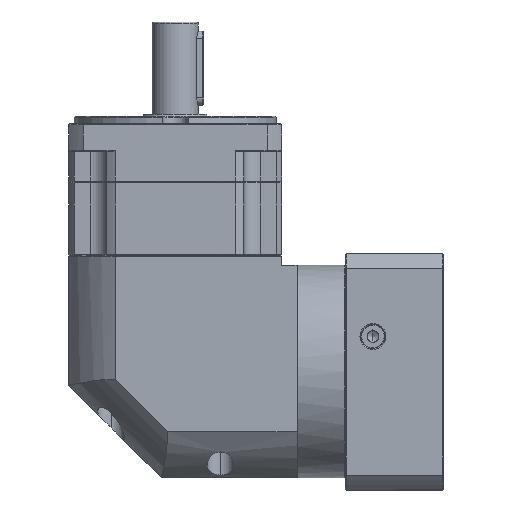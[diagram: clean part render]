
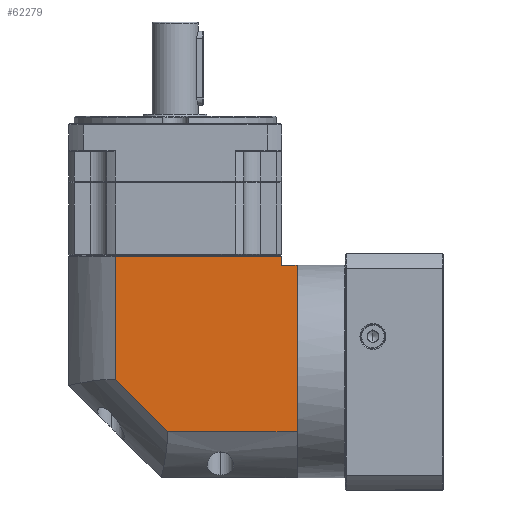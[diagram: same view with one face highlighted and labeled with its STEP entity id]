
A CAD part, left-side view. The second image highlights one B-rep face of the part: STEP entity #62279.
In plain terms, the highlighted planar face has unit normal (-1, 0, 0).
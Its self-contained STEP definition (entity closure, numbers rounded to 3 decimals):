
#909 = DIRECTION ( 'NONE',  ( 0., 0., -1. ) ) ;
#5706 = AXIS2_PLACEMENT_3D ( 'NONE', #172085, #91884, #11455 ) ;
#5979 = LINE ( 'NONE', #122843, #144469 ) ;
#6281 = CARTESIAN_POINT ( 'NONE',  ( -266.667, 6.115, 56.891 ) ) ;
#7271 = CARTESIAN_POINT ( 'NONE',  ( -266.667, -18.985, -9.671 ) ) ;
#11455 = DIRECTION ( 'NONE',  ( 0., 1., 0. ) ) ;
#16996 = ORIENTED_EDGE ( 'NONE', *, *, #155941, .F. ) ;
#17947 = VERTEX_POINT ( 'NONE', #33221 ) ;
#20611 = CARTESIAN_POINT ( 'NONE',  ( -266.667, -18.985, 56.891 ) ) ;
#27426 = VERTEX_POINT ( 'NONE', #144026 ) ;
#29031 = CARTESIAN_POINT ( 'NONE',  ( -266.667, -18.985, 63.391 ) ) ;
#30702 = CARTESIAN_POINT ( 'NONE',  ( -266.667, -47.323, -38.009 ) ) ;
#33016 = CARTESIAN_POINT ( 'NONE',  ( -266.667, -108.885, 56.891 ) ) ;
#33221 = CARTESIAN_POINT ( 'NONE',  ( -266.667, -47.323, -38.009 ) ) ;
#33978 = EDGE_CURVE ( 'NONE', #70452, #88734, #152165, .T. ) ;
#36535 = VERTEX_POINT ( 'NONE', #70586 ) ;
#39250 = VECTOR ( 'NONE', #100207, 1000. ) ;
#40720 = CARTESIAN_POINT ( 'NONE',  ( -266.667, -117.285, 63.391 ) ) ;
#41665 = EDGE_CURVE ( 'NONE', #142251, #71357, #47777, .T. ) ;
#43440 = ORIENTED_EDGE ( 'NONE', *, *, #33978, .T. ) ;
#44076 = ORIENTED_EDGE ( 'NONE', *, *, #41665, .F. ) ;
#44226 = DIRECTION ( 'NONE',  ( 0., 0.707, 0.707 ) ) ;
#47671 = DIRECTION ( 'NONE',  ( 0., 1., 0. ) ) ;
#47777 = LINE ( 'NONE', #29031, #119237 ) ;
#58406 = FACE_OUTER_BOUND ( 'NONE', #157382, .T. ) ;
#60822 = ORIENTED_EDGE ( 'NONE', *, *, #81012, .F. ) ;
#62279 = ADVANCED_FACE ( 'NONE', ( #58406 ), #77771, .F. ) ;
#65496 = ORIENTED_EDGE ( 'NONE', *, *, #109919, .F. ) ;
#70452 = VERTEX_POINT ( 'NONE', #138922 ) ;
#70586 = CARTESIAN_POINT ( 'NONE',  ( -266.667, -117.285, 51.891 ) ) ;
#71357 = VERTEX_POINT ( 'NONE', #20611 ) ;
#71930 = VECTOR ( 'NONE', #909, 1000. ) ;
#73873 = LINE ( 'NONE', #30702, #145187 ) ;
#76587 = VECTOR ( 'NONE', #153417, 1000. ) ;
#77771 = PLANE ( 'NONE',  #5706 ) ;
#81012 = EDGE_CURVE ( 'NONE', #27426, #17947, #98958, .T. ) ;
#82157 = EDGE_CURVE ( 'NONE', #71357, #88734, #142168, .T. ) ;
#88734 = VERTEX_POINT ( 'NONE', #33016 ) ;
#91884 = DIRECTION ( 'NONE',  ( 1., 0., 0. ) ) ;
#98958 = LINE ( 'NONE', #128153, #170144 ) ;
#100207 = DIRECTION ( 'NONE',  ( 0., -1., 0. ) ) ;
#109919 = EDGE_CURVE ( 'NONE', #17947, #142251, #73873, .T. ) ;
#118142 = ORIENTED_EDGE ( 'NONE', *, *, #82157, .F. ) ;
#119237 = VECTOR ( 'NONE', #122990, 1000. ) ;
#122843 = CARTESIAN_POINT ( 'NONE',  ( -266.667, -108.885, 51.891 ) ) ;
#122990 = DIRECTION ( 'NONE',  ( 0., 0., 1. ) ) ;
#126490 = CARTESIAN_POINT ( 'NONE',  ( -266.667, -108.885, -63.109 ) ) ;
#128153 = CARTESIAN_POINT ( 'NONE',  ( -266.667, 6.115, -38.009 ) ) ;
#136279 = DIRECTION ( 'NONE',  ( 0., 1., 0. ) ) ;
#138922 = CARTESIAN_POINT ( 'NONE',  ( -266.667, -108.885, 51.891 ) ) ;
#139243 = EDGE_CURVE ( 'NONE', #36535, #70452, #5979, .T. ) ;
#142168 = LINE ( 'NONE', #6281, #39250 ) ;
#142251 = VERTEX_POINT ( 'NONE', #7271 ) ;
#143268 = LINE ( 'NONE', #40720, #71930 ) ;
#144026 = CARTESIAN_POINT ( 'NONE',  ( -266.667, -117.285, -38.009 ) ) ;
#144469 = VECTOR ( 'NONE', #136279, 1000. ) ;
#145187 = VECTOR ( 'NONE', #44226, 1000. ) ;
#152165 = LINE ( 'NONE', #126490, #76587 ) ;
#153417 = DIRECTION ( 'NONE',  ( 0., 0., 1. ) ) ;
#155536 = ORIENTED_EDGE ( 'NONE', *, *, #139243, .T. ) ;
#155941 = EDGE_CURVE ( 'NONE', #36535, #27426, #143268, .T. ) ;
#157382 = EDGE_LOOP ( 'NONE', ( #44076, #65496, #60822, #16996, #155536, #43440, #118142 ) ) ;
#170144 = VECTOR ( 'NONE', #47671, 1000. ) ;
#172085 = CARTESIAN_POINT ( 'NONE',  ( -266.667, 6.115, 63.391 ) ) ;
